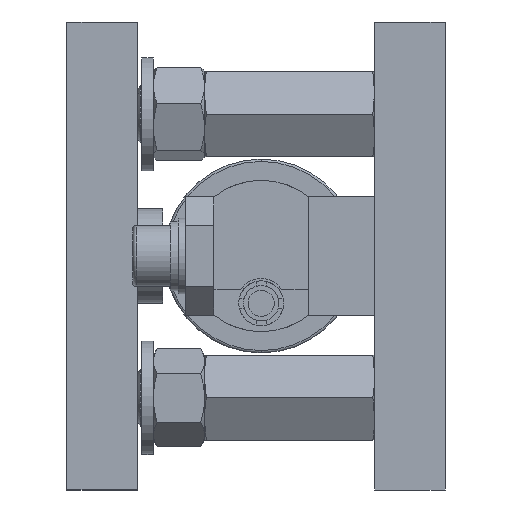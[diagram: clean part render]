
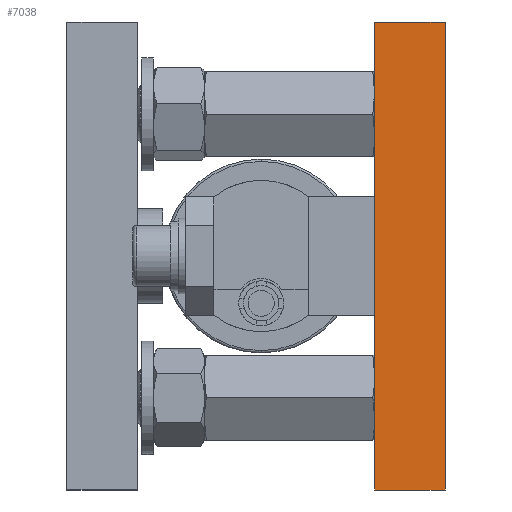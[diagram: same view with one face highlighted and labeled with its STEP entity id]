
A CAD part, left-side view. The second image highlights one B-rep face of the part: STEP entity #7038.
In plain terms, the highlighted planar face has unit normal (-1, 0, 0).
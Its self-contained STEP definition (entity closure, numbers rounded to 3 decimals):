
#70 = VECTOR ( 'NONE', #5948, 1000. ) ;
#256 = CARTESIAN_POINT ( 'NONE',  ( -66., 14.9, -49.5 ) ) ;
#586 = EDGE_CURVE ( 'NONE', #19609, #16380, #15214, .T. ) ;
#3235 = ORIENTED_EDGE ( 'NONE', *, *, #21999, .T. ) ;
#4300 = AXIS2_PLACEMENT_3D ( 'NONE', #12956, #12465, #16885 ) ;
#5622 = DIRECTION ( 'NONE',  ( 0., -1., 0. ) ) ;
#5948 = DIRECTION ( 'NONE',  ( 0., -1., 0. ) ) ;
#6194 = CARTESIAN_POINT ( 'NONE',  ( -66., 14.9, 49.5 ) ) ;
#7038 = ADVANCED_FACE ( 'NONE', ( #14881 ), #10584, .F. ) ;
#7317 = VECTOR ( 'NONE', #7963, 1000. ) ;
#7963 = DIRECTION ( 'NONE',  ( 0., 0., 1. ) ) ;
#8617 = CARTESIAN_POINT ( 'NONE',  ( -66., 14.9, -49.5 ) ) ;
#9184 = VECTOR ( 'NONE', #10247, 1000. ) ;
#10247 = DIRECTION ( 'NONE',  ( 0., 0., 1. ) ) ;
#10496 = EDGE_LOOP ( 'NONE', ( #3235, #21514, #24353, #15885 ) ) ;
#10584 = PLANE ( 'NONE',  #4300 ) ;
#10739 = EDGE_CURVE ( 'NONE', #15330, #14207, #21650, .T. ) ;
#11282 = CARTESIAN_POINT ( 'NONE',  ( -66., 0., -49.5 ) ) ;
#12465 = DIRECTION ( 'NONE',  ( 1., 0., 0. ) ) ;
#12956 = CARTESIAN_POINT ( 'NONE',  ( -66., 14.9, -49.5 ) ) ;
#13618 = LINE ( 'NONE', #256, #7317 ) ;
#14207 = VERTEX_POINT ( 'NONE', #23559 ) ;
#14881 = FACE_OUTER_BOUND ( 'NONE', #10496, .T. ) ;
#15214 = LINE ( 'NONE', #22856, #20584 ) ;
#15330 = VERTEX_POINT ( 'NONE', #18679 ) ;
#15846 = EDGE_CURVE ( 'NONE', #19609, #15330, #13618, .T. ) ;
#15885 = ORIENTED_EDGE ( 'NONE', *, *, #586, .T. ) ;
#16380 = VERTEX_POINT ( 'NONE', #11282 ) ;
#16885 = DIRECTION ( 'NONE',  ( 0., 0., -1. ) ) ;
#18679 = CARTESIAN_POINT ( 'NONE',  ( -66., 14.9, 49.5 ) ) ;
#19609 = VERTEX_POINT ( 'NONE', #8617 ) ;
#20284 = LINE ( 'NONE', #23941, #9184 ) ;
#20584 = VECTOR ( 'NONE', #5622, 1000. ) ;
#21514 = ORIENTED_EDGE ( 'NONE', *, *, #10739, .F. ) ;
#21650 = LINE ( 'NONE', #6194, #70 ) ;
#21999 = EDGE_CURVE ( 'NONE', #16380, #14207, #20284, .T. ) ;
#22856 = CARTESIAN_POINT ( 'NONE',  ( -66., 14.9, -49.5 ) ) ;
#23559 = CARTESIAN_POINT ( 'NONE',  ( -66., 0., 49.5 ) ) ;
#23941 = CARTESIAN_POINT ( 'NONE',  ( -66., 0., -49.5 ) ) ;
#24353 = ORIENTED_EDGE ( 'NONE', *, *, #15846, .F. ) ;
